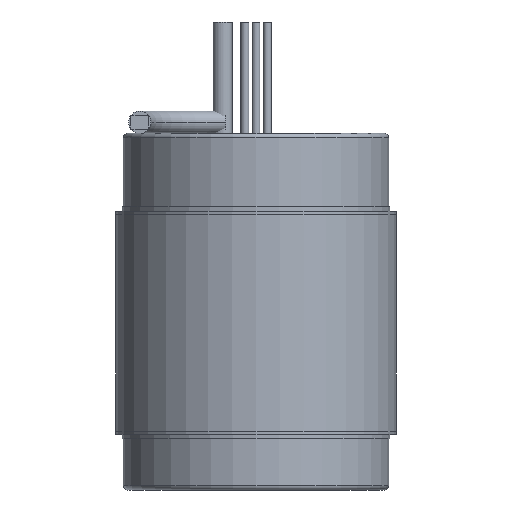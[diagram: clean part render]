
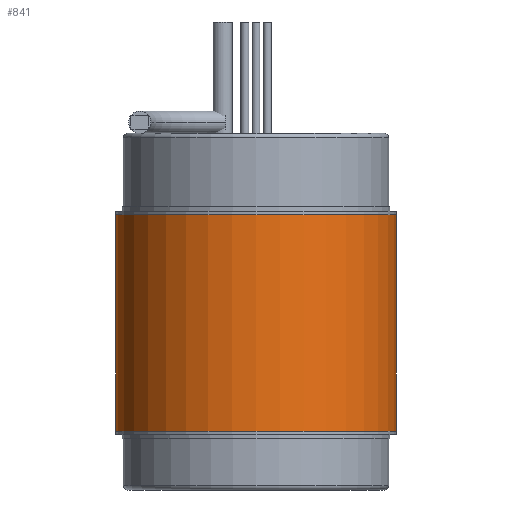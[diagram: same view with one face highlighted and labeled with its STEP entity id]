
A CAD part, front view. The second image highlights one B-rep face of the part: STEP entity #841.
In plain terms, the highlighted cylindrical face has radius 16.002 mm (diameter 32.004 mm), a partial arc.
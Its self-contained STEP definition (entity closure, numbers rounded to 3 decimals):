
#18 = DIRECTION ( 'NONE',  ( 1., 0., 0. ) ) ;
#204 = VERTEX_POINT ( 'NONE', #1384 ) ;
#225 = VERTEX_POINT ( 'NONE', #1113 ) ;
#306 = VERTEX_POINT ( 'NONE', #951 ) ;
#542 = VERTEX_POINT ( 'NONE', #568 ) ;
#568 = CARTESIAN_POINT ( 'NONE',  ( -16.002, 0., -12.344 ) ) ;
#643 = CARTESIAN_POINT ( 'NONE',  ( -16.002, 0., -13.208 ) ) ;
#644 = ORIENTED_EDGE ( 'NONE', *, *, #1493, .T. ) ;
#718 = DIRECTION ( 'NONE',  ( 0., 0., 1. ) ) ;
#724 = VECTOR ( 'NONE', #1597, 1000. ) ;
#837 = DIRECTION ( 'NONE',  ( 0., 0., 1. ) ) ;
#841 = ADVANCED_FACE ( 'NONE', ( #2519 ), #2874, .T. ) ;
#842 = VECTOR ( 'NONE', #2478, 1000. ) ;
#852 = CIRCLE ( 'NONE', #2627, 16.002 ) ;
#951 = CARTESIAN_POINT ( 'NONE',  ( -16.002, 0., 12.344 ) ) ;
#1017 = EDGE_CURVE ( 'NONE', #306, #204, #852, .T. ) ;
#1061 = LINE ( 'NONE', #643, #724 ) ;
#1093 = ORIENTED_EDGE ( 'NONE', *, *, #1017, .F. ) ;
#1113 = CARTESIAN_POINT ( 'NONE',  ( 16.002, 0., -12.344 ) ) ;
#1276 = EDGE_LOOP ( 'NONE', ( #1775, #2790, #644, #1093 ) ) ;
#1295 = AXIS2_PLACEMENT_3D ( 'NONE', #1563, #1994, #18 ) ;
#1319 = CARTESIAN_POINT ( 'NONE',  ( 16.002, 0., -13.208 ) ) ;
#1384 = CARTESIAN_POINT ( 'NONE',  ( 16.002, 0., 12.344 ) ) ;
#1412 = EDGE_CURVE ( 'NONE', #542, #225, #1914, .T. ) ;
#1486 = LINE ( 'NONE', #1319, #842 ) ;
#1493 = EDGE_CURVE ( 'NONE', #225, #204, #1486, .T. ) ;
#1563 = CARTESIAN_POINT ( 'NONE',  ( 0., 0., -13.208 ) ) ;
#1593 = AXIS2_PLACEMENT_3D ( 'NONE', #1780, #837, #1633 ) ;
#1597 = DIRECTION ( 'NONE',  ( 0., 0., 1. ) ) ;
#1633 = DIRECTION ( 'NONE',  ( 1., 0., 0. ) ) ;
#1775 = ORIENTED_EDGE ( 'NONE', *, *, #1978, .F. ) ;
#1780 = CARTESIAN_POINT ( 'NONE',  ( 0., 0., -12.344 ) ) ;
#1882 = CARTESIAN_POINT ( 'NONE',  ( 0., 0., 12.344 ) ) ;
#1914 = CIRCLE ( 'NONE', #1593, 16.002 ) ;
#1978 = EDGE_CURVE ( 'NONE', #542, #306, #1061, .T. ) ;
#1994 = DIRECTION ( 'NONE',  ( 0., 0., 1. ) ) ;
#2310 = DIRECTION ( 'NONE',  ( 1., 0., 0. ) ) ;
#2478 = DIRECTION ( 'NONE',  ( 0., 0., 1. ) ) ;
#2519 = FACE_OUTER_BOUND ( 'NONE', #1276, .T. ) ;
#2627 = AXIS2_PLACEMENT_3D ( 'NONE', #1882, #718, #2310 ) ;
#2790 = ORIENTED_EDGE ( 'NONE', *, *, #1412, .T. ) ;
#2874 = CYLINDRICAL_SURFACE ( 'NONE', #1295, 16.002 ) ;
